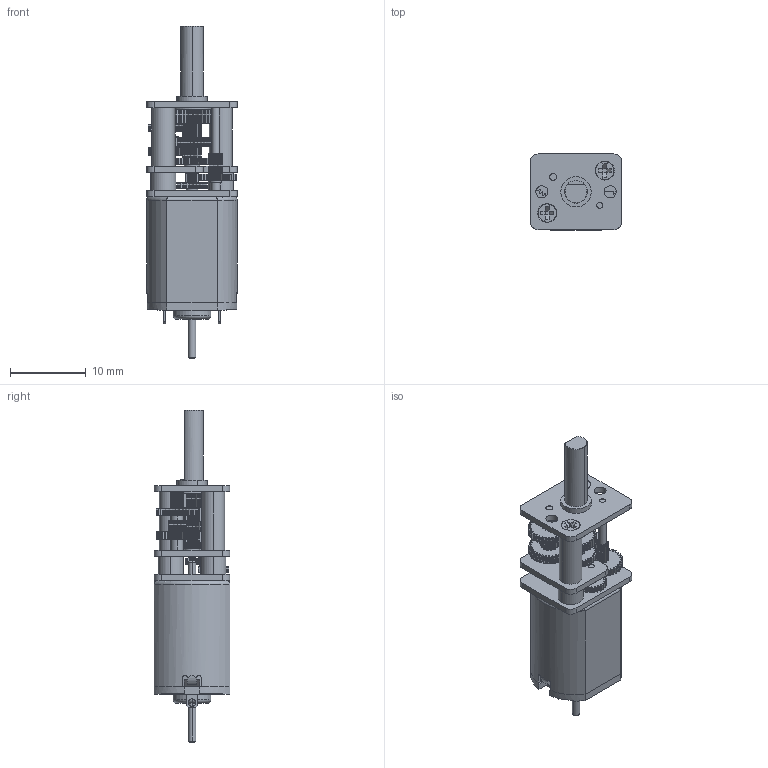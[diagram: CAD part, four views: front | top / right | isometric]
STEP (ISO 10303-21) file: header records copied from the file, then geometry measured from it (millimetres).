
FILE_DESCRIPTION (( 'STEP AP214' ), '1' );
FILE_NAME ('mmgm-1000-1-backshaft.STEP', '2024-04-23T21:23:44', ( '' ), ( '' ), 'SwSTEP 2.0', 'SolidWorks 2023', '' );
FILE_SCHEMA (( 'AUTOMOTIVE_DESIGN' ));
Length unit declared in the file: inch
Products named in the file (1): mmgm-1000-1-backshaft
Bounding box: 12 x 10 x 43.8 mm (x, y, z)
Volume: 2224.4 mm3; surface area: 2508.9 mm2
Topology: 1 solids, 3 shells, 3019 faces, 9014 edges, 6059 vertices
Faces by surface type: cylinder 1706, plane 944, bspline 354, torus 9, cone 6
Entity records: 162779 total; most frequent: CARTESIAN_POINT 53105, ORIENTED_EDGE 18028, DIRECTION 10011, EDGE_CURVE 9014, VERTEX_POINT 6059, B_SPLINE_CURVE_WITH_KNOTS 5660, AXIS2_PLACEMENT_3D 4005, EDGE_LOOP 3123
